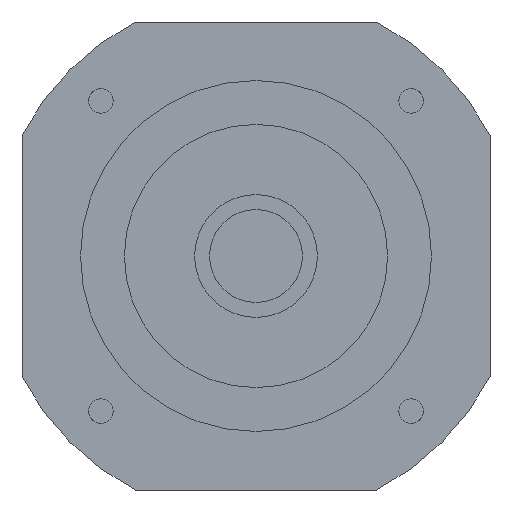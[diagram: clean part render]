
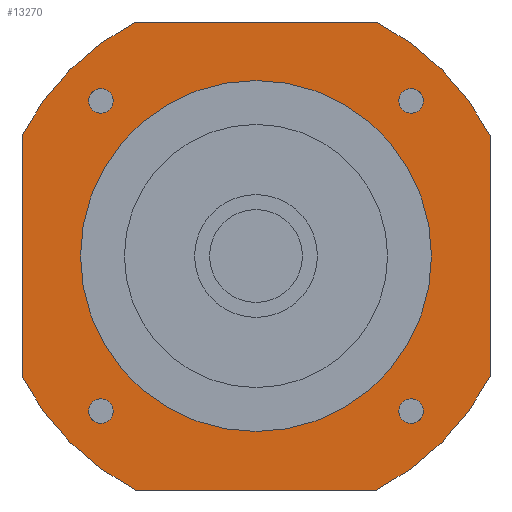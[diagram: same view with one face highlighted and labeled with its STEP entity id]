
A CAD part, left-side view. The second image highlights one B-rep face of the part: STEP entity #13270.
In plain terms, the highlighted planar face has unit normal (-1, 0, 0) as drawn and (0, 0, -1) by its records, which use the part's own axes.
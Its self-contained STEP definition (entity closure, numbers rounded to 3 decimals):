
#8640=CARTESIAN_POINT('',(-40.,-20.616,-42.2));
#8650=VERTEX_POINT('',#8640);
#8830=CARTESIAN_POINT('',(-20.616,-40.,-42.2));
#8840=VERTEX_POINT('',#8830);
#8870=CARTESIAN_POINT('',(0.,0.,
-42.2));
#8880=DIRECTION('',(0.,0.,1.));
#8890=DIRECTION('',(-1.,0.,0.));
#8900=AXIS2_PLACEMENT_3D('',#8870,#8880,#8890);
#8910=CIRCLE('',#8900,45.);
#8920=EDGE_CURVE('',#8650,#8840,#8910,.T.);
#9060=CARTESIAN_POINT('',(-20.616,40.,-42.2));
#9070=VERTEX_POINT('',#9060);
#9250=CARTESIAN_POINT('',(-40.,20.616,-42.2));
#9260=VERTEX_POINT('',#9250);
#9290=CARTESIAN_POINT('',(0.,0.,
-42.2));
#9300=DIRECTION('',(0.,0.,1.));
#9310=DIRECTION('',(-1.,0.,0.));
#9320=AXIS2_PLACEMENT_3D('',#9290,#9300,#9310);
#9330=CIRCLE('',#9320,45.);
#9340=EDGE_CURVE('',#9070,#9260,#9330,.T.);
#11810=CARTESIAN_POINT('',(40.,40.,-42.2));
#11820=DIRECTION('',(0.,0.,1.));
#11830=DIRECTION('',(-1.,0.,0.));
#11840=AXIS2_PLACEMENT_3D('',#11810,#11820,#11830);
#11850=PLANE('',#11840);
#11860=CARTESIAN_POINT('',(-26.517,26.517,-42.2));
#11870=DIRECTION('',(0.,0.,-1.));
#11880=DIRECTION('',(0.,-1.,0.));
#11890=AXIS2_PLACEMENT_3D('',#11860,#11870,#11880);
#11900=CIRCLE('',#11890,2.1);
#11910=CARTESIAN_POINT('',(-26.517,24.417,-42.2));
#11920=VERTEX_POINT('',#11910);
#11930=CARTESIAN_POINT('',(-28.617,26.517,-42.2));
#11940=VERTEX_POINT('',#11930);
#11950=EDGE_CURVE('',#11920,#11940,#11900,.T.);
#11960=ORIENTED_EDGE('',*,*,#11950,.F.);
#11970=CARTESIAN_POINT('',(-24.417,26.517,-42.2));
#11980=VERTEX_POINT('',#11970);
#11990=EDGE_CURVE('',#11940,#11980,#11900,.T.);
#12000=ORIENTED_EDGE('',*,*,#11990,.F.);
#12010=EDGE_CURVE('',#11980,#11920,#11900,.T.);
#12020=ORIENTED_EDGE('',*,*,#12010,.F.);
#12030=EDGE_LOOP('',(#12020,#12000,#11960));
#12040=FACE_BOUND('',#12030,.T.);
#12050=CARTESIAN_POINT('',(26.517,26.517,-42.2));
#12060=DIRECTION('',(0.,0.,-1.));
#12070=DIRECTION('',(0.,-1.,0.));
#12080=AXIS2_PLACEMENT_3D('',#12050,#12060,#12070);
#12090=CIRCLE('',#12080,2.1);
#12100=CARTESIAN_POINT('',(26.517,24.417,-42.2));
#12110=VERTEX_POINT('',#12100);
#12120=CARTESIAN_POINT('',(24.417,26.517,-42.2));
#12130=VERTEX_POINT('',#12120);
#12140=EDGE_CURVE('',#12110,#12130,#12090,.T.);
#12150=ORIENTED_EDGE('',*,*,#12140,.F.);
#12160=CARTESIAN_POINT('',(28.617,26.517,-42.2));
#12170=VERTEX_POINT('',#12160);
#12180=EDGE_CURVE('',#12130,#12170,#12090,.T.);
#12190=ORIENTED_EDGE('',*,*,#12180,.F.);
#12200=EDGE_CURVE('',#12170,#12110,#12090,.T.);
#12210=ORIENTED_EDGE('',*,*,#12200,.F.);
#12220=EDGE_LOOP('',(#12210,#12190,#12150));
#12230=FACE_BOUND('',#12220,.T.);
#12240=CARTESIAN_POINT('',(26.517,-26.517,-42.2));
#12250=DIRECTION('',(0.,0.,-1.));
#12260=DIRECTION('',(0.,-1.,0.));
#12270=AXIS2_PLACEMENT_3D('',#12240,#12250,#12260);
#12280=CIRCLE('',#12270,2.1);
#12290=CARTESIAN_POINT('',(26.517,-28.617,-42.2));
#12300=VERTEX_POINT('',#12290);
#12310=CARTESIAN_POINT('',(24.417,-26.517,-42.2));
#12320=VERTEX_POINT('',#12310);
#12330=EDGE_CURVE('',#12300,#12320,#12280,.T.);
#12340=ORIENTED_EDGE('',*,*,#12330,.F.);
#12350=CARTESIAN_POINT('',(28.617,-26.517,-42.2));
#12360=VERTEX_POINT('',#12350);
#12370=EDGE_CURVE('',#12320,#12360,#12280,.T.);
#12380=ORIENTED_EDGE('',*,*,#12370,.F.);
#12390=EDGE_CURVE('',#12360,#12300,#12280,.T.);
#12400=ORIENTED_EDGE('',*,*,#12390,.F.);
#12410=EDGE_LOOP('',(#12400,#12380,#12340));
#12420=FACE_BOUND('',#12410,.T.);
#12430=CARTESIAN_POINT('',(0.,0.,
-42.2));
#12440=DIRECTION('',(0.,0.,1.));
#12450=DIRECTION('',(1.,0.,0.));
#12460=AXIS2_PLACEMENT_3D('',#12430,#12440,#12450);
#12470=CIRCLE('',#12460,30.);
#12480=CARTESIAN_POINT('',(30.,0.,-42.2));
#12490=VERTEX_POINT('',#12480);
#12500=CARTESIAN_POINT('',(-30.,0.,-42.2));
#12510=VERTEX_POINT('',#12500);
#12520=EDGE_CURVE('',#12490,#12510,#12470,.T.);
#12530=ORIENTED_EDGE('',*,*,#12520,.T.);
#12540=EDGE_CURVE('',#12510,#12490,#12470,.T.);
#12550=ORIENTED_EDGE('',*,*,#12540,.T.);
#12560=EDGE_LOOP('',(#12550,#12530));
#12570=FACE_BOUND('',#12560,.T.);
#12580=CARTESIAN_POINT('',(-26.517,-26.517,-42.2));
#12590=DIRECTION('',(0.,0.,-1.));
#12600=DIRECTION('',(0.,-1.,0.));
#12610=AXIS2_PLACEMENT_3D('',#12580,#12590,#12600);
#12620=CIRCLE('',#12610,2.1);
#12630=CARTESIAN_POINT('',(-26.517,-28.617,-42.2));
#12640=VERTEX_POINT('',#12630);
#12650=CARTESIAN_POINT('',(-28.617,-26.517,-42.2));
#12660=VERTEX_POINT('',#12650);
#12670=EDGE_CURVE('',#12640,#12660,#12620,.T.);
#12680=ORIENTED_EDGE('',*,*,#12670,.F.);
#12690=CARTESIAN_POINT('',(-24.417,-26.517,-42.2));
#12700=VERTEX_POINT('',#12690);
#12710=EDGE_CURVE('',#12660,#12700,#12620,.T.);
#12720=ORIENTED_EDGE('',*,*,#12710,.F.);
#12730=EDGE_CURVE('',#12700,#12640,#12620,.T.);
#12740=ORIENTED_EDGE('',*,*,#12730,.F.);
#12750=EDGE_LOOP('',(#12740,#12720,#12680));
#12760=FACE_BOUND('',#12750,.T.);
#12770=ORIENTED_EDGE('',*,*,#8920,.F.);
#12780=CARTESIAN_POINT('',(-40.,-40.,-42.2));
#12790=DIRECTION('',(1.,0.,0.));
#12800=VECTOR('',#12790,1000.);
#12810=LINE('',#12780,#12800);
#12820=CARTESIAN_POINT('',(20.616,-40.,-42.2));
#12830=VERTEX_POINT('',#12820);
#12840=EDGE_CURVE('',#8840,#12830,#12810,.T.);
#12850=ORIENTED_EDGE('',*,*,#12840,.F.);
#12860=CARTESIAN_POINT('',(0.,0.,
-42.2));
#12870=DIRECTION('',(0.,0.,1.));
#12880=DIRECTION('',(-1.,0.,0.));
#12890=AXIS2_PLACEMENT_3D('',#12860,#12870,#12880);
#12900=CIRCLE('',#12890,45.);
#12910=CARTESIAN_POINT('',(40.,-20.616,-42.2));
#12920=VERTEX_POINT('',#12910);
#12930=EDGE_CURVE('',#12830,#12920,#12900,.T.);
#12940=ORIENTED_EDGE('',*,*,#12930,.F.);
#12950=CARTESIAN_POINT('',(40.,-40.,-42.2));
#12960=DIRECTION('',(0.,1.,0.));
#12970=VECTOR('',#12960,1000.);
#12980=LINE('',#12950,#12970);
#12990=CARTESIAN_POINT('',(40.,20.616,-42.2));
#13000=VERTEX_POINT('',#12990);
#13010=EDGE_CURVE('',#12920,#13000,#12980,.T.);
#13020=ORIENTED_EDGE('',*,*,#13010,.F.);
#13030=CARTESIAN_POINT('',(0.,0.,
-42.2));
#13040=DIRECTION('',(0.,0.,1.));
#13050=DIRECTION('',(-1.,0.,0.));
#13060=AXIS2_PLACEMENT_3D('',#13030,#13040,#13050);
#13070=CIRCLE('',#13060,45.);
#13080=CARTESIAN_POINT('',(20.616,40.,-42.2));
#13090=VERTEX_POINT('',#13080);
#13100=EDGE_CURVE('',#13000,#13090,#13070,.T.);
#13110=ORIENTED_EDGE('',*,*,#13100,.F.);
#13120=CARTESIAN_POINT('',(40.,40.,-42.2));
#13130=DIRECTION('',(-1.,0.,0.));
#13140=VECTOR('',#13130,1000.);
#13150=LINE('',#13120,#13140);
#13160=EDGE_CURVE('',#13090,#9070,#13150,.T.);
#13170=ORIENTED_EDGE('',*,*,#13160,.F.);
#13180=ORIENTED_EDGE('',*,*,#9340,.F.);
#13190=CARTESIAN_POINT('',(-40.,40.,-42.2));
#13200=DIRECTION('',(0.,-1.,0.));
#13210=VECTOR('',#13200,1000.);
#13220=LINE('',#13190,#13210);
#13230=EDGE_CURVE('',#9260,#8650,#13220,.T.);
#13240=ORIENTED_EDGE('',*,*,#13230,.F.);
#13250=EDGE_LOOP('',(#13240,#13180,#13170,#13110,#13020,#12940,#12850,
#12770));
#13260=FACE_OUTER_BOUND('',#13250,.T.);
#13270=ADVANCED_FACE('',(#12040,#12230,#12420,#12570,#12760,#13260),
#11850,.F.);
